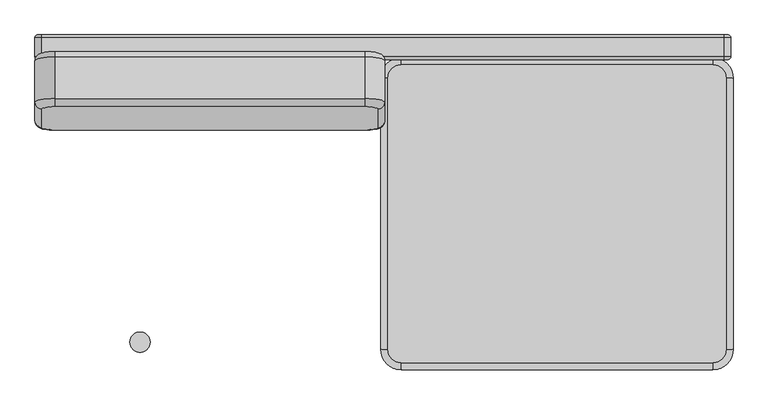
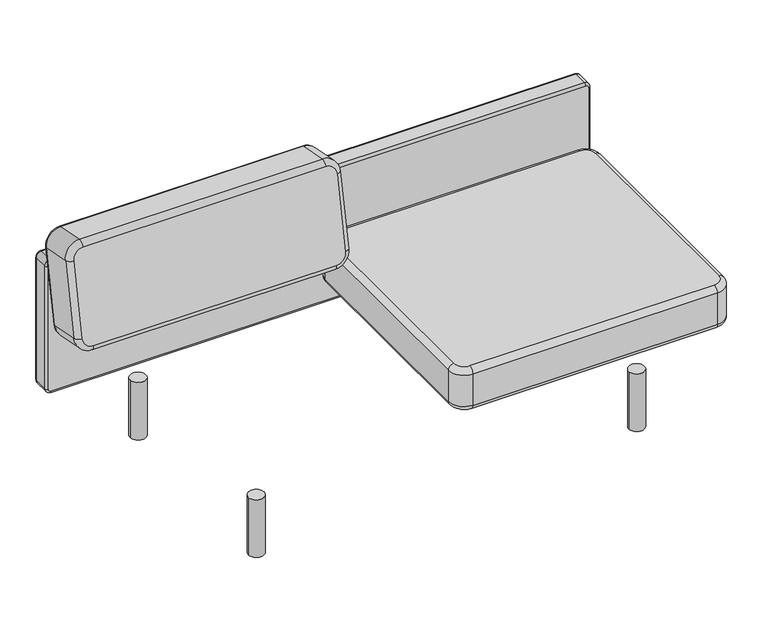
"""IFC4 building model written with IfcOpenShell, lengths in millimetres: furniture geometry, Fredericia - EJ220 Sofa 2 seater 86 - 2052 : Fredericia - EJ220 Sofa 2 seater 86 - 2052."""

from ifc_helpers import new_model, si_unit, point, frame, frame_2d, origin, origin_with_axes, place, context, project, spatial, circle_curve, ellipse_curve, trimmed, segment, composite_curve, outline, extrude, source, transform, mapped, element, save
from ifc_brep_helpers import plane_surface, cylinder_surface, revolved_surface, advanced_brep


def furniture_a2e73fbc(model_context):
    return source(origin(), model_context, "Body", "SolidModel", [
        advanced_brep(
        [(-846.8013561, 664.9135782, 710.8736296), (-846.8013561, 619.8100699, 478.8361951), (-814.1335362, 613.576756, 446.7685751), (-45.0, 613.576756, 446.7685751), (-12.3321801, 619.8100699, 478.8361951), (-12.3321801, 664.9135782, 710.8736296), (-45.0, 671.1468921, 742.9412497), (-814.1335362, 671.1468921, 742.9412497), (-846.8013561, 757.062351, 452.1570543), (-846.8013561, 802.1658592, 684.1944888), (-814.1335362, 808.3991731, 716.2621088), (-45.0, 808.3991731, 716.2621088), (-12.3321801, 802.1658592, 684.1944888), (-12.3321801, 757.062351, 452.1570543), (-45.0, 750.8290371, 420.0894343), (-814.1335362, 750.8290371, 420.0894343), (-864.1335362, 740.0486118, 455.4641902), (-864.1335362, 636.819047, 475.5299849), (-864.1335362, 681.9225552, 707.5674194), (-864.1335362, 785.1521201, 687.5016246), (-814.1335362, 794.6925699, 736.5829838), (-814.1335362, 691.463005, 756.6487785), (-45.0, 691.463005, 756.6487785), (-45.0, 794.6925699, 736.5829838), (5.0, 785.1521201, 687.5016246), (5.0, 681.9225552, 707.5674194), (5.0, 636.819047, 475.5299849), (5.0, 740.0486118, 455.4641902), (-45.0, 730.5081621, 406.382831), (-45.0, 627.2785972, 426.4486258), (-814.1335362, 627.2785972, 426.4486258), (-814.1335362, 730.5081621, 406.382831)],
        [
            (0, 1),
            (1, 2, circle_curve(frame((-814.1335362, 619.8100699, 478.8361951), z_axis=(0.0, -0.9816271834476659, 0.1908089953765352), x_axis=(0.0, -0.1908089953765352, -0.9816271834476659)), 32.6678199)),
            (2, 3),
            (3, 4, circle_curve(frame((-45.0, 619.8100699, 478.8361951), z_axis=(0.0, -0.9816271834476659, 0.1908089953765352), x_axis=(1.0, 0.0, 0.0)), 32.6678199)),
            (4, 5),
            (5, 6, circle_curve(frame((-45.0, 664.9135782, 710.8736296), z_axis=(0.0, -0.9816271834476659, 0.1908089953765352), x_axis=(0.0, 0.1908089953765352, 0.9816271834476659)), 32.6678199)),
            (6, 7),
            (7, 0, circle_curve(frame((-814.1335362, 664.9135782, 710.8736296), z_axis=(0.0, -0.9816271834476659, 0.1908089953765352), x_axis=(-1.0, 0.0, 0.0)), 32.6678199)),
            (8, 9),
            (9, 10, circle_curve(frame((-814.1335362, 802.1658592, 684.1944888), z_axis=(0.0, 0.9816271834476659, -0.1908089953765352), x_axis=(-1.0, 0.0, 0.0)), 32.6678199)),
            (10, 11),
            (11, 12, circle_curve(frame((-45.0, 802.1658592, 684.1944888), z_axis=(0.0, 0.9816271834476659, -0.1908089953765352), x_axis=(0.0, 0.1908089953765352, 0.9816271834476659)), 32.6678199)),
            (12, 13),
            (13, 14, circle_curve(frame((-45.0, 757.062351, 452.1570543), z_axis=(0.0, 0.9816271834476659, -0.1908089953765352), x_axis=(1.0, 0.0, 0.0)), 32.6678199)),
            (14, 15),
            (15, 8, circle_curve(frame((-814.1335362, 757.062351, 452.1570543), z_axis=(0.0, 0.9816271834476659, -0.1908089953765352), x_axis=(0.0, -0.1908089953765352, -0.9816271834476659)), 32.6678199)),
            (16, 17),
            (17, 18),
            (18, 19),
            (19, 16),
            (20, 21),
            (21, 22),
            (22, 23),
            (23, 20),
            (24, 25),
            (25, 26),
            (26, 27),
            (27, 24),
            (28, 29),
            (29, 30),
            (30, 31),
            (31, 28),
            (17, 1, circle_curve(frame((-846.8013561, 636.819047, 475.5299849), z_axis=(0.0, 0.1908089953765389, 0.9816271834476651), x_axis=(1.0, 0.0, 0.0)), 17.3321801)),
            (0, 18, circle_curve(frame((-846.8013561, 681.9225552, 707.5674194), z_axis=(0.0, -0.1908089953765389, -0.9816271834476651), x_axis=(1.0, 0.0, 0.0)), 17.3321801)),
            (19, 9, circle_curve(frame((-846.8013561, 785.1521201, 687.5016246), z_axis=(0.0, -0.19080899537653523, -0.9816271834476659), x_axis=(1.0, 0.0, 0.0)), 17.3321801)),
            (8, 16, circle_curve(frame((-846.8013561, 740.0486118, 455.4641902), z_axis=(0.0, 0.19080899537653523, 0.9816271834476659), x_axis=(1.0, 0.0, 0.0)), 17.3321801)),
            (21, 7, circle_curve(frame((-814.1335362, 688.1558691, 739.6350394), z_axis=(1.0, 0.0, 0.0), x_axis=(0.0, -0.19080899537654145, -0.9816271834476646)), 17.3321801)),
            (6, 22, circle_curve(frame((-45.0, 688.1558691, 739.6350394), z_axis=(-1.0, 0.0, 0.0), x_axis=(0.0, -0.19080899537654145, -0.9816271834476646)), 17.3321801)),
            (23, 11, circle_curve(frame((-45.0, 791.385434, 719.5692447), z_axis=(-1.0, 0.0, 0.0), x_axis=(0.0, -0.19080899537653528, -0.9816271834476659)), 17.3321801)),
            (10, 20, circle_curve(frame((-814.1335362, 791.385434, 719.5692447), z_axis=(1.0, 0.0, 0.0), x_axis=(0.0, -0.19080899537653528, -0.9816271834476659)), 17.3321801)),
            (25, 5, circle_curve(frame((-12.3321801, 681.9225552, 707.5674194), z_axis=(0.0, -0.19080899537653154, -0.9816271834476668), x_axis=(-1.0, 0.0, 0.0)), 17.3321801)),
            (4, 26, circle_curve(frame((-12.3321801, 636.819047, 475.5299849), z_axis=(0.0, 0.19080899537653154, 0.9816271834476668), x_axis=(-1.0, 0.0, 0.0)), 17.3321801)),
            (27, 13, circle_curve(frame((-12.3321801, 740.0486118, 455.4641902), z_axis=(0.0, 0.1908089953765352, 0.981627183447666), x_axis=(-1.0, 0.0, 0.0)), 17.3321801)),
            (12, 24, circle_curve(frame((-12.3321801, 785.1521201, 687.5016246), z_axis=(0.0, -0.1908089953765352, -0.981627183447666), x_axis=(-1.0, 0.0, 0.0)), 17.3321801)),
            (29, 3, circle_curve(frame((-45.0, 630.585733, 443.4623649), z_axis=(-1.0, 0.0, 0.0), x_axis=(0.0, 0.19080899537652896, 0.9816271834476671)), 17.3321801)),
            (2, 30, circle_curve(frame((-814.1335362, 630.585733, 443.4623649), z_axis=(1.0, 0.0, 0.0), x_axis=(0.0, 0.19080899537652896, 0.9816271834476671)), 17.3321801)),
            (31, 15, circle_curve(frame((-814.1335362, 733.8152979, 423.3965701), z_axis=(1.0, 0.0, 0.0), x_axis=(0.0, 0.19080899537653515, 0.9816271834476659)), 17.3321801)),
            (14, 28, circle_curve(frame((-45.0, 733.8152979, 423.3965701), z_axis=(-1.0, 0.0, 0.0), x_axis=(0.0, 0.19080899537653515, 0.9816271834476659)), 17.3321801)),
            (17, 30, circle_curve(frame((-814.1335362, 636.819047, 475.5299849), z_axis=(0.0, -0.9816271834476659, 0.1908089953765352), x_axis=(0.0, -0.1908089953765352, -0.9816271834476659)), 50.0)),
            (16, 31, circle_curve(frame((-814.1335362, 740.0486118, 455.4641902), z_axis=(0.0, -0.9816271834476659, 0.1908089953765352), x_axis=(0.0, -0.1908089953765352, -0.9816271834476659)), 50.0)),
            (21, 18, circle_curve(frame((-814.1335362, 681.9225552, 707.5674194), z_axis=(0.0, -0.9816271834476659, 0.1908089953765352), x_axis=(-1.0, 0.0, 0.0)), 50.0)),
            (20, 19, circle_curve(frame((-814.1335362, 785.1521201, 687.5016246), z_axis=(0.0, -0.9816271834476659, 0.1908089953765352), x_axis=(-1.0, 0.0, 0.0)), 50.0)),
            (25, 22, circle_curve(frame((-45.0, 681.9225552, 707.5674194), z_axis=(0.0, -0.9816271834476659, 0.1908089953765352), x_axis=(0.0, 0.1908089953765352, 0.9816271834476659)), 50.0)),
            (24, 23, circle_curve(frame((-45.0, 785.1521201, 687.5016246), z_axis=(0.0, -0.9816271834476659, 0.1908089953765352), x_axis=(0.0, 0.1908089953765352, 0.9816271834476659)), 50.0)),
            (29, 26, circle_curve(frame((-45.0, 636.819047, 475.5299849), z_axis=(0.0, -0.9816271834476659, 0.1908089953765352), x_axis=(1.0, 0.0, 0.0)), 50.0)),
            (28, 27, circle_curve(frame((-45.0, 740.0486118, 455.4641902), z_axis=(0.0, -0.9816271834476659, 0.1908089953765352), x_axis=(1.0, 0.0, 0.0)), 50.0)),
        ],
        [
            plane_surface(frame((401.9530797, 670.637848, 740.3224451), z_axis=(0.0, -0.9816271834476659, 0.1908089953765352), x_axis=(-1.0, 0.0, 0.0))),
            plane_surface(frame((401.9530797, 807.8901291, 713.6433043), z_axis=(0.0, 0.9816271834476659, -0.1908089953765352), x_axis=(1.0, 0.0, 0.0))),
            plane_surface(frame((-864.1335362, 636.819047, 475.5299849), z_axis=(-1.0000000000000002, 0.0, 0.0), x_axis=(0.0, 0.1908089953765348, 0.981627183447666))),
            plane_surface(frame((-814.1335362, 691.463005, 756.6487785), z_axis=(0.0, 0.19080899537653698, 0.9816271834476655), x_axis=(1.0, 0.0, 0.0))),
            plane_surface(frame((5.0, 681.9225552, 707.5674194), z_axis=(1.0000000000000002, 0.0, 0.0), x_axis=(0.0, -0.19080899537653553, -0.9816271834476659))),
            plane_surface(frame((-45.0, 627.2785972, 426.4486258), z_axis=(0.0, -0.19080899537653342, -0.9816271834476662), x_axis=(-1.0, 0.0, 0.0))),
            cylinder_surface(frame((-846.8013561, 636.819047, 475.5299849), z_axis=(0.0, -0.1908089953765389, -0.9816271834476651), x_axis=(1.0, 0.0, 0.0)), 17.3321801),
            cylinder_surface(frame((-846.8013561, 740.0486118, 455.4641902), z_axis=(0.0, -0.19080899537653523, -0.9816271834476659), x_axis=(1.0, 0.0, 0.0)), 17.3321801),
            cylinder_surface(frame((-814.1335362, 688.1558691, 739.6350394), z_axis=(-1.0, 0.0, 0.0), x_axis=(0.0, -0.19080899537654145, -0.9816271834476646)), 17.3321801),
            cylinder_surface(frame((-814.1335362, 791.385434, 719.5692447), z_axis=(-1.0000000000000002, 0.0, 0.0), x_axis=(0.0, -0.19080899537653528, -0.9816271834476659)), 17.3321801),
            cylinder_surface(frame((-12.3321801, 681.9225552, 707.5674194), z_axis=(0.0, 0.19080899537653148, 0.9816271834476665), x_axis=(-1.0, 0.0, 0.0)), 17.3321801),
            cylinder_surface(frame((-12.3321801, 785.1521201, 687.5016246), z_axis=(0.0, 0.19080899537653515, 0.9816271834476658), x_axis=(-1.0, 0.0, 0.0)), 17.3321801),
            cylinder_surface(frame((-45.0, 630.585733, 443.4623649), z_axis=(1.0, 0.0, 0.0), x_axis=(0.0, 0.19080899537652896, 0.9816271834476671)), 17.3321801),
            cylinder_surface(frame((-45.0, 733.8152979, 423.3965701), z_axis=(1.0, 0.0, 0.0), x_axis=(0.0, 0.19080899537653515, 0.9816271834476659)), 17.3321801),
            revolved_surface(trimmed(ellipse_curve(frame((-814.1335362, 630.585733, 443.4623649), z_axis=(1.0000000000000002, 0.0, 0.0), x_axis=(0.0, 0.19080899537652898, 0.9816271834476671)), 17.3321801, 17.3321801), [point((-814.1335362, 613.5719939, 446.7695007))], [point((-814.1335362, 627.2785972, 426.4486258))], True, "CARTESIAN"), (-814.1335362, 801.1332803, 443.5905334), (0.0, 0.9816271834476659, -0.1908089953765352)),
            cylinder_surface(frame((-814.1335362, 801.1332803, 443.5905334), z_axis=(0.0, 0.9816271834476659, -0.1908089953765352), x_axis=(0.0, -0.1908089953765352, -0.9816271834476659)), 50.0),
            revolved_surface(trimmed(ellipse_curve(frame((-814.1335362, 733.8152979, 423.3965701), z_axis=(1.0000000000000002, 0.0, 0.0), x_axis=(0.0, 0.19080899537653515, 0.9816271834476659)), 17.3321801, 17.3321801), [point((-814.1335362, 730.5081621, 406.382831))], [point((-814.1335362, 750.8290371, 420.0894343))], True, "CARTESIAN"), (-814.1335362, 801.1332803, 443.5905334), (0.0, 0.9816271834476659, -0.1908089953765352)),
            revolved_surface(trimmed(ellipse_curve(frame((-846.8013561, 681.9225552, 707.5674194), z_axis=(0.0, -0.19080899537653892, -0.9816271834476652), x_axis=(1.0, 0.0, 0.0)), 17.3321801, 17.3321801), [point((-846.8013561, 664.9088161, 710.8745552))], [point((-864.1335362, 681.9225552, 707.5674194))], True, "CARTESIAN"), (-814.1335362, 846.2367886, 675.6279679), (0.0, 0.9816271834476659, -0.1908089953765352)),
            cylinder_surface(frame((-814.1335362, 846.2367886, 675.6279679), z_axis=(0.0, 0.9816271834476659, -0.1908089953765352), x_axis=(-1.0, 0.0, 0.0)), 50.0),
            revolved_surface(trimmed(ellipse_curve(frame((-846.8013561, 785.1521201, 687.5016246), z_axis=(0.0, -0.19080899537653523, -0.9816271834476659), x_axis=(1.0, 0.0, 0.0)), 17.3321801, 17.3321801), [point((-864.1335362, 785.1521201, 687.5016246))], [point((-846.8013561, 802.1658592, 684.1944888))], True, "CARTESIAN"), (-814.1335362, 846.2367886, 675.6279679), (0.0, 0.9816271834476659, -0.1908089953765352)),
            revolved_surface(trimmed(ellipse_curve(frame((-45.0, 688.1558691, 739.6350394), z_axis=(-1.0000000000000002, 0.0, 0.0), x_axis=(0.0, -0.19080899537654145, -0.9816271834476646)), 17.3321801, 17.3321801), [point((-45.0, 671.14213, 742.9421753))], [point((-45.0, 691.463005, 756.6487785))], True, "CARTESIAN"), (-45.0, 846.2367886, 675.6279679), (0.0, 0.9816271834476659, -0.1908089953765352)),
            cylinder_surface(frame((-45.0, 846.2367886, 675.6279679), z_axis=(0.0, 0.9816271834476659, -0.1908089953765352), x_axis=(0.0, 0.1908089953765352, 0.9816271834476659)), 50.0),
            revolved_surface(trimmed(ellipse_curve(frame((-45.0, 791.385434, 719.5692447), z_axis=(-1.0000000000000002, 0.0, 0.0), x_axis=(0.0, -0.19080899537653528, -0.9816271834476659)), 17.3321801, 17.3321801), [point((-45.0, 794.6925699, 736.5829838))], [point((-45.0, 808.3991731, 716.2621088))], True, "CARTESIAN"), (-45.0, 846.2367886, 675.6279679), (0.0, 0.9816271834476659, -0.1908089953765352)),
            revolved_surface(trimmed(ellipse_curve(frame((-12.3321801, 636.819047, 475.5299849), z_axis=(0.0, 0.19080899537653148, 0.9816271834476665), x_axis=(-1.0, 0.0, 0.0)), 17.3321801, 17.3321801), [point((-12.3321801, 619.8053078, 478.8371208))], [point((5.0, 636.819047, 475.5299849))], True, "CARTESIAN"), (-45.0, 801.1332803, 443.5905334), (0.0, 0.9816271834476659, -0.1908089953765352)),
            cylinder_surface(frame((-45.0, 801.1332803, 443.5905334), z_axis=(0.0, 0.9816271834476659, -0.1908089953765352), x_axis=(1.0, 0.0, 0.0)), 50.0),
            revolved_surface(trimmed(ellipse_curve(frame((-12.3321801, 740.0486118, 455.4641902), z_axis=(0.0, 0.19080899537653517, 0.9816271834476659), x_axis=(-1.0, 0.0, 0.0)), 17.3321801, 17.3321801), [point((5.0, 740.0486118, 455.4641902))], [point((-12.3321801, 757.062351, 452.1570543))], True, "CARTESIAN"), (-45.0, 801.1332803, 443.5905334), (0.0, 0.9816271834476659, -0.1908089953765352)),
        ],
        [
            (0, [[1, 2, 3, 4, 5, 6, 7, 8]]),
            (1, [[9, 10, 11, 12, 13, 14, 15, 16]]),
            (2, [[17, 18, 19, 20]]),
            (3, [[21, 22, 23, 24]]),
            (4, [[25, 26, 27, 28]]),
            (5, [[29, 30, 31, 32]]),
            (6, [[-18, 33, -1, 34]]),
            (7, [[-20, 35, -9, 36]]),
            (8, [[-22, 37, -7, 38]]),
            (9, [[-24, 39, -11, 40]]),
            (10, [[-26, 41, -5, 42]]),
            (11, [[-28, 43, -13, 44]]),
            (12, [[-30, 45, -3, 46]]),
            (13, [[-32, 47, -15, 48]]),
            (14, [[-33, 49, -46, -2]]),
            (15, [[-17, 50, -31, -49]]),
            (16, [[-36, -16, -47, -50]]),
            (17, [[-34, -8, -37, 51]]),
            (18, [[-19, -51, -21, 52]]),
            (19, [[-35, -52, -40, -10]]),
            (20, [[-38, -6, -41, 53]]),
            (21, [[-23, -53, -25, 54]]),
            (22, [[-39, -54, -44, -12]]),
            (23, [[-42, -4, -45, 55]]),
            (24, [[-27, -55, -29, 56]]),
            (25, [[-43, -56, -48, -14]]),
        ],
    ),
        advanced_brep(
        [(852.1555128, 743.0641303, 290.0), (852.1555128, 67.7, 290.0), (819.4876929, 35.0321801, 290.0), (45.0, 35.0321801, 290.0), (12.3321801, 67.7, 290.0), (12.3321801, 743.0641303, 290.0), (45.0, 775.7319503, 290.0), (819.4876929, 775.7319503, 290.0), (852.1555128, 67.7, 429.8211901), (852.1555128, 743.0641303, 429.8211901), (819.4876929, 775.7319503, 429.8211901), (45.0, 775.7319503, 429.8211901), (12.3321801, 743.0641303, 429.8211901), (12.3321801, 67.7, 429.8211901), (45.0, 35.0321801, 429.8211901), (819.4876929, 35.0321801, 429.8211901), (869.4876929, 743.0641303, 307.3273289), (869.4876929, 743.0641303, 412.4890101), (869.4876929, 67.7, 412.4890101), (869.4876929, 67.7, 307.3273289), (819.4876929, 17.7, 307.3273289), (819.4876929, 17.7, 412.4890101), (45.0, 17.7, 412.4890101), (45.0, 17.7, 307.3273289), (-5.0, 67.7, 307.3273289), (-5.0, 67.7, 412.4890101), (-5.0, 743.0641303, 412.4890101), (-5.0, 743.0641303, 307.3273289), (45.0, 793.0641303, 307.3273289), (45.0, 793.0641303, 412.4890101), (819.4876929, 793.0641303, 412.4890101), (819.4876929, 793.0641303, 307.3273289)],
        [
            (0, 1),
            (1, 2, circle_curve(frame((819.4876929, 67.7, 290.0), z_axis=(0.0, 0.0, -1.0), x_axis=(1.0, 0.0, 0.0)), 32.6678199)),
            (2, 3),
            (3, 4, circle_curve(frame((45.0, 67.7, 290.0), z_axis=(0.0, 0.0, -1.0), x_axis=(0.0, -1.0, 0.0)), 32.6678199)),
            (4, 5),
            (5, 6, circle_curve(frame((45.0, 743.0641303, 290.0), z_axis=(0.0, 0.0, -1.0), x_axis=(-1.0, 0.0, 0.0)), 32.6678199)),
            (6, 7),
            (7, 0, circle_curve(frame((819.4876929, 743.0641303, 290.0), z_axis=(0.0, 0.0, -1.0), x_axis=(0.0, 1.0, 0.0)), 32.6678199)),
            (8, 9),
            (9, 10, circle_curve(frame((819.4876929, 743.0641303, 429.8211901), z_axis=(0.0, 0.0, 1.0), x_axis=(0.0, 1.0, 0.0)), 32.6678199)),
            (10, 11),
            (11, 12, circle_curve(frame((45.0, 743.0641303, 429.8211901), z_axis=(0.0, 0.0, 1.0), x_axis=(-1.0, 0.0, 0.0)), 32.6678199)),
            (12, 13),
            (13, 14, circle_curve(frame((45.0, 67.7, 429.8211901), z_axis=(0.0, 0.0, 1.0), x_axis=(0.0, -1.0, 0.0)), 32.6678199)),
            (14, 15),
            (15, 8, circle_curve(frame((819.4876929, 67.7, 429.8211901), z_axis=(0.0, 0.0, 1.0), x_axis=(1.0, 0.0, 0.0)), 32.6678199)),
            (16, 17),
            (17, 18),
            (18, 19),
            (19, 16),
            (20, 21),
            (21, 22),
            (22, 23),
            (23, 20),
            (24, 25),
            (25, 26),
            (26, 27),
            (27, 24),
            (28, 29),
            (29, 30),
            (30, 31),
            (31, 28),
            (19, 1, circle_curve(frame((852.1555128, 67.7, 307.3273289), z_axis=(0.0, 1.0, 0.0), x_axis=(-1.0, 0.0, 0.0)), 17.3321801)),
            (0, 16, circle_curve(frame((852.1555128, 743.0641303, 307.3273289), z_axis=(0.0, -1.0, 0.0), x_axis=(-1.0, 0.0, 0.0)), 17.3321801)),
            (17, 9, circle_curve(frame((852.1555128, 743.0641303, 412.4890101), z_axis=(0.0, -1.0, 0.0), x_axis=(-1.0, 0.0, 0.0)), 17.3321801)),
            (8, 18, circle_curve(frame((852.1555128, 67.7, 412.4890101), z_axis=(0.0, 1.0, 0.0), x_axis=(-1.0, 0.0, 0.0)), 17.3321801)),
            (23, 3, circle_curve(frame((45.0, 35.0321801, 307.3273289), z_axis=(1.0, 0.0, 0.0), x_axis=(0.0, 1.0, 0.0)), 17.3321801)),
            (2, 20, circle_curve(frame((819.4876929, 35.0321801, 307.3273289), z_axis=(-1.0, 0.0, 0.0), x_axis=(0.0, 1.0, 0.0)), 17.3321801)),
            (21, 15, circle_curve(frame((819.4876929, 35.0321801, 412.4890101), z_axis=(-1.0, 0.0, 0.0), x_axis=(0.0, 1.0, 0.0)), 17.3321801)),
            (14, 22, circle_curve(frame((45.0, 35.0321801, 412.4890101), z_axis=(1.0, 0.0, 0.0), x_axis=(0.0, 1.0, 0.0)), 17.3321801)),
            (27, 5, circle_curve(frame((12.3321801, 743.0641303, 307.3273289), z_axis=(0.0, -1.0, 0.0), x_axis=(1.0, 0.0, 0.0)), 17.3321801)),
            (4, 24, circle_curve(frame((12.3321801, 67.7, 307.3273289), z_axis=(0.0, 1.0, 0.0), x_axis=(1.0, 0.0, 0.0)), 17.3321801)),
            (25, 13, circle_curve(frame((12.3321801, 67.7, 412.4890101), z_axis=(0.0, 1.0, 0.0), x_axis=(1.0, 0.0, 0.0)), 17.3321801)),
            (12, 26, circle_curve(frame((12.3321801, 743.0641303, 412.4890101), z_axis=(0.0, -1.0, 0.0), x_axis=(1.0, 0.0, 0.0)), 17.3321801)),
            (31, 7, circle_curve(frame((819.4876929, 775.7319503, 307.3273289), z_axis=(-1.0, 0.0, 0.0), x_axis=(0.0, -1.0, 0.0)), 17.3321801)),
            (6, 28, circle_curve(frame((45.0, 775.7319503, 307.3273289), z_axis=(1.0, 0.0, 0.0), x_axis=(0.0, -1.0, 0.0)), 17.3321801)),
            (29, 11, circle_curve(frame((45.0, 775.7319503, 412.4890101), z_axis=(1.0, 0.0, 0.0), x_axis=(0.0, -1.0, 0.0)), 17.3321801)),
            (10, 30, circle_curve(frame((819.4876929, 775.7319503, 412.4890101), z_axis=(-1.0, 0.0, 0.0), x_axis=(0.0, -1.0, 0.0)), 17.3321801)),
            (31, 16, circle_curve(frame((819.4876929, 743.0641303, 307.3273289), z_axis=(0.0, 0.0, -1.0), x_axis=(0.0, 1.0, 0.0)), 50.0)),
            (30, 17, circle_curve(frame((819.4876929, 743.0641303, 412.4890101), z_axis=(0.0, 0.0, -1.0), x_axis=(0.0, 1.0, 0.0)), 50.0)),
            (19, 20, circle_curve(frame((819.4876929, 67.7, 307.3273289), z_axis=(0.0, 0.0, -1.0), x_axis=(1.0, 0.0, 0.0)), 50.0)),
            (18, 21, circle_curve(frame((819.4876929, 67.7, 412.4890101), z_axis=(0.0, 0.0, -1.0), x_axis=(1.0, 0.0, 0.0)), 50.0)),
            (23, 24, circle_curve(frame((45.0, 67.7, 307.3273289), z_axis=(0.0, 0.0, -1.0), x_axis=(0.0, -1.0, 0.0)), 50.0)),
            (22, 25, circle_curve(frame((45.0, 67.7, 412.4890101), z_axis=(0.0, 0.0, -1.0), x_axis=(0.0, -1.0, 0.0)), 50.0)),
            (27, 28, circle_curve(frame((45.0, 743.0641303, 307.3273289), z_axis=(0.0, 0.0, -1.0), x_axis=(-1.0, 0.0, 0.0)), 50.0)),
            (26, 29, circle_curve(frame((45.0, 743.0641303, 412.4890101), z_axis=(0.0, 0.0, -1.0), x_axis=(-1.0, 0.0, 0.0)), 50.0)),
        ],
        [
            plane_surface(frame((789.4876929, 67.7, 290.0), z_axis=(0.0, 0.0, -1.0), x_axis=(0.0, 1.0, 0.0))),
            plane_surface(frame((789.4876929, 67.7, 429.8211901), z_axis=(0.0, 0.0, 1.0), x_axis=(0.0, -1.0, 0.0))),
            plane_surface(frame((869.4876929, 743.0641303, 412.4890101), z_axis=(1.0, 0.0, 0.0), x_axis=(0.0, -1.0, 0.0))),
            plane_surface(frame((819.4876929, 17.7, 412.4890101), z_axis=(0.0, -1.0, 0.0), x_axis=(-1.0, 0.0, 0.0))),
            plane_surface(frame((-5.0, 67.7, 412.4890101), z_axis=(-1.0, 0.0, 0.0), x_axis=(0.0, 1.0, 0.0))),
            plane_surface(frame((45.0, 793.0641303, 412.4890101), z_axis=(0.0, 1.0, 0.0), x_axis=(1.0, 0.0, 0.0))),
            cylinder_surface(frame((852.1555128, 743.0641303, 307.3273289), z_axis=(0.0, 1.0, 0.0), x_axis=(-1.0, 0.0, 0.0)), 17.3321801),
            cylinder_surface(frame((852.1555128, 743.0641303, 412.4890101), z_axis=(0.0, 1.0, 0.0), x_axis=(-1.0, 0.0, 0.0)), 17.3321801),
            cylinder_surface(frame((819.4876929, 35.0321801, 307.3273289), z_axis=(1.0, 0.0, 0.0), x_axis=(0.0, 1.0, 0.0)), 17.3321801),
            cylinder_surface(frame((819.4876929, 35.0321801, 412.4890101), z_axis=(1.0, 0.0, 0.0), x_axis=(0.0, 1.0, 0.0)), 17.3321801),
            cylinder_surface(frame((12.3321801, 67.7, 307.3273289), z_axis=(0.0, -1.0, 0.0), x_axis=(1.0, 0.0, 0.0)), 17.3321801),
            cylinder_surface(frame((12.3321801, 67.7, 412.4890101), z_axis=(0.0, -1.0, 0.0), x_axis=(1.0, 0.0, 0.0)), 17.3321801),
            cylinder_surface(frame((45.0, 775.7319503, 307.3273289), z_axis=(-1.0, 0.0, 0.0), x_axis=(0.0, -1.0, 0.0)), 17.3321801),
            cylinder_surface(frame((45.0, 775.7319503, 412.4890101), z_axis=(-1.0, 0.0, 0.0), x_axis=(0.0, -1.0, 0.0)), 17.3321801),
            revolved_surface(trimmed(ellipse_curve(frame((819.4876929, 775.7319503, 307.3273289), z_axis=(-1.0, 0.0, 0.0), x_axis=(0.0, -1.0, 0.0)), 17.3321801, 17.3321801), [point((819.4876929, 793.0641303, 307.3273289))], [point((819.4876929, 775.7319503, 289.9951488))], True, "CARTESIAN"), (819.4876929, 743.0641303, 474.7169816), (0.0, 0.0, -1.0)),
            cylinder_surface(frame((819.4876929, 743.0641303, 474.7169816), z_axis=(0.0, 0.0, -1.0), x_axis=(0.0, 1.0, 0.0)), 50.0),
            revolved_surface(trimmed(ellipse_curve(frame((819.4876929, 775.7319503, 412.4890101), z_axis=(-1.0, 0.0, 0.0), x_axis=(0.0, -1.0, 0.0)), 17.3321801, 17.3321801), [point((819.4876929, 775.7319503, 429.8211901))], [point((819.4876929, 793.0641303, 412.4890101))], True, "CARTESIAN"), (819.4876929, 743.0641303, 474.7169816), (0.0, 0.0, -1.0)),
            revolved_surface(trimmed(ellipse_curve(frame((852.1555128, 67.7, 307.3273289), z_axis=(0.0, 1.0, 0.0), x_axis=(-1.0, 0.0, 0.0)), 17.3321801, 17.3321801), [point((869.4876929, 67.7, 307.3273289))], [point((852.1555128, 67.7, 289.9951488))], True, "CARTESIAN"), (819.4876929, 67.7, 474.7169816), (0.0, 0.0, -1.0)),
            cylinder_surface(frame((819.4876929, 67.7, 474.7169816), z_axis=(0.0, 0.0, -1.0), x_axis=(1.0, 0.0, 0.0)), 50.0),
            revolved_surface(trimmed(ellipse_curve(frame((852.1555128, 67.7, 412.4890101), z_axis=(0.0, 1.0, 0.0), x_axis=(-1.0, 0.0, 0.0)), 17.3321801, 17.3321801), [point((852.1555128, 67.7, 429.8211901))], [point((869.4876929, 67.7, 412.4890101))], True, "CARTESIAN"), (819.4876929, 67.7, 474.7169816), (0.0, 0.0, -1.0)),
            revolved_surface(trimmed(ellipse_curve(frame((45.0, 35.0321801, 307.3273289), z_axis=(1.0, 0.0, 0.0), x_axis=(0.0, 1.0, 0.0)), 17.3321801, 17.3321801), [point((45.0, 17.7, 307.3273289))], [point((45.0, 35.0321801, 289.9951488))], True, "CARTESIAN"), (45.0, 67.7, 474.7169816), (0.0, 0.0, -1.0)),
            cylinder_surface(frame((45.0, 67.7, 474.7169816), z_axis=(0.0, 0.0, -1.0), x_axis=(0.0, -1.0, 0.0)), 50.0),
            revolved_surface(trimmed(ellipse_curve(frame((45.0, 35.0321801, 412.4890101), z_axis=(1.0, 0.0, 0.0), x_axis=(0.0, 1.0, 0.0)), 17.3321801, 17.3321801), [point((45.0, 35.0321801, 429.8211901))], [point((45.0, 17.7, 412.4890101))], True, "CARTESIAN"), (45.0, 67.7, 474.7169816), (0.0, 0.0, -1.0)),
            revolved_surface(trimmed(ellipse_curve(frame((12.3321801, 743.0641303, 307.3273289), z_axis=(0.0, -1.0, 0.0), x_axis=(1.0, 0.0, 0.0)), 17.3321801, 17.3321801), [point((-5.0, 743.0641303, 307.3273289))], [point((12.3321801, 743.0641303, 289.9951488))], True, "CARTESIAN"), (45.0, 743.0641303, 474.7169816), (0.0, 0.0, -1.0)),
            cylinder_surface(frame((45.0, 743.0641303, 474.7169816), z_axis=(0.0, 0.0, -1.0), x_axis=(-1.0, 0.0, 0.0)), 50.0),
            revolved_surface(trimmed(ellipse_curve(frame((12.3321801, 743.0641303, 412.4890101), z_axis=(0.0, -1.0, 0.0), x_axis=(1.0, 0.0, 0.0)), 17.3321801, 17.3321801), [point((12.3321801, 743.0641303, 429.8211901))], [point((-5.0, 743.0641303, 412.4890101))], True, "CARTESIAN"), (45.0, 743.0641303, 474.7169816), (0.0, 0.0, -1.0)),
        ],
        [
            (0, [[1, 2, 3, 4, 5, 6, 7, 8]]),
            (1, [[9, 10, 11, 12, 13, 14, 15, 16]]),
            (2, [[17, 18, 19, 20]]),
            (3, [[21, 22, 23, 24]]),
            (4, [[25, 26, 27, 28]]),
            (5, [[29, 30, 31, 32]]),
            (6, [[-20, 33, -1, 34]]),
            (7, [[-18, 35, -9, 36]]),
            (8, [[-24, 37, -3, 38]]),
            (9, [[-22, 39, -15, 40]]),
            (10, [[-28, 41, -5, 42]]),
            (11, [[-26, 43, -13, 44]]),
            (12, [[-32, 45, -7, 46]]),
            (13, [[-30, 47, -11, 48]]),
            (14, [[-34, -8, -45, 49]]),
            (15, [[-17, -49, -31, 50]]),
            (16, [[-35, -50, -48, -10]]),
            (17, [[-33, 51, -38, -2]]),
            (18, [[-19, 52, -21, -51]]),
            (19, [[-36, -16, -39, -52]]),
            (20, [[-37, 53, -42, -4]]),
            (21, [[-23, 54, -25, -53]]),
            (22, [[-40, -14, -43, -54]]),
            (23, [[-41, 55, -46, -6]]),
            (24, [[-27, 56, -29, -55]]),
            (25, [[-44, -12, -47, -56]]),
        ],
    ),
        extrude(outline(composite_curve([segment(trimmed(circle_curve(frame_2d((-603.2583193, 86.2196986)), 25.0), [point((-578.2583193, 86.2196986))], [point((-628.2583193, 86.2196986))], False, "CARTESIAN"), True, "CONTINUOUS"), segment(trimmed(circle_curve(frame_2d((-603.2583193, 86.2196986)), 25.0), [point((-628.2583193, 86.2196986))], [point((-578.2583193, 86.2196986))], False, "CARTESIAN"), True, "CONTINUOUS")], self_intersect=False)), origin_with_axes(), (0.0, 0.0, 1.0), 192.8),
        extrude(outline(composite_curve([segment(trimmed(circle_curve(frame_2d((-603.2583193, 735.5757348)), 25.0), [point((-578.2583193, 735.5757348))], [point((-628.2583193, 735.5757348))], False, "CARTESIAN"), True, "CONTINUOUS"), segment(trimmed(circle_curve(frame_2d((-603.2583193, 735.5757348)), 25.0), [point((-628.2583193, 735.5757348))], [point((-578.2583193, 735.5757348))], False, "CARTESIAN"), True, "CONTINUOUS")], self_intersect=False)), origin_with_axes(), (0.0, 0.0, 1.0), 192.8),
        extrude(outline(composite_curve([segment(trimmed(circle_curve(frame_2d((603.0099961, 735.5757348)), 25.0), [point((628.0099961, 735.5757348))], [point((578.0099961, 735.5757348))], False, "CARTESIAN"), True, "CONTINUOUS"), segment(trimmed(circle_curve(frame_2d((603.0099961, 735.5757348)), 25.0), [point((578.0099961, 735.5757348))], [point((628.0099961, 735.5757348))], False, "CARTESIAN"), True, "CONTINUOUS")], self_intersect=False)), origin_with_axes(), (0.0, 0.0, 1.0), 192.8),
        extrude(outline(composite_curve([segment(trimmed(circle_curve(frame_2d((603.0099961, 86.3098054)), 25.0), [point((628.0099961, 86.3098054))], [point((578.0099961, 86.3098054))], False, "CARTESIAN"), True, "CONTINUOUS"), segment(trimmed(circle_curve(frame_2d((603.0099961, 86.3098054)), 25.0), [point((578.0099961, 86.3098054))], [point((628.0099961, 86.3098054))], False, "CARTESIAN"), True, "CONTINUOUS")], self_intersect=False)), origin_with_axes(), (0.0, 0.0, 1.0), 192.8),
        advanced_brep(
        [(-856.6335362, 788.5182574, 620.2295429), (-856.6335362, 788.5182574, 209.855155), (-847.0335362, 788.5182574, 200.255155), (846.5320736, 788.5182574, 200.255155), (856.1320736, 788.5182574, 209.855155), (856.1320736, 788.5182574, 620.2295429), (846.5320736, 788.5182574, 629.8295429), (-847.0335362, 788.5182574, 629.8295429), (-856.6335362, 850.0101989, 209.855155), (-856.6335362, 850.0101989, 620.2295429), (-847.0335362, 850.0101989, 629.8295429), (846.5320736, 850.0101989, 629.8295429), (856.1320736, 850.0101989, 620.2295429), (856.1320736, 850.0101989, 209.855155), (846.5320736, 850.0101989, 200.255155), (-847.0335362, 850.0101989, 200.255155), (-864.1335362, 796.0182574, 209.855155), (-864.1335362, 796.0182574, 620.2295429), (-864.1335362, 842.5101989, 620.2295429), (-864.1335362, 842.5101989, 209.855155), (-847.0335362, 796.0182574, 637.3295429), (846.5320736, 796.0182574, 637.3295429), (846.5320736, 842.5101989, 637.3295429), (-847.0335362, 842.5101989, 637.3295429), (863.6320736, 796.0182574, 620.2295429), (863.6320736, 796.0182574, 209.855155), (863.6320736, 842.5101989, 209.855155), (863.6320736, 842.5101989, 620.2295429), (846.5320736, 796.0182574, 192.755155), (-847.0335362, 796.0182574, 192.755155), (-847.0335362, 842.5101989, 192.755155), (846.5320736, 842.5101989, 192.755155)],
        [
            (0, 1),
            (1, 2, circle_curve(frame((-847.0335362, 788.5182574, 209.855155), z_axis=(0.0, -1.0, 0.0), x_axis=(0.0, 0.0, -1.0)), 9.6)),
            (2, 3),
            (3, 4, circle_curve(frame((846.5320736, 788.5182574, 209.855155), z_axis=(0.0, -1.0, 0.0), x_axis=(1.0, 0.0, 0.0)), 9.6)),
            (4, 5),
            (5, 6, circle_curve(frame((846.5320736, 788.5182574, 620.2295429), z_axis=(0.0, -1.0, 0.0), x_axis=(0.0, 0.0, 1.0)), 9.6)),
            (6, 7),
            (7, 0, circle_curve(frame((-847.0335362, 788.5182574, 620.2295429), z_axis=(0.0, -1.0, 0.0), x_axis=(-1.0, 0.0, 0.0)), 9.6)),
            (8, 9),
            (9, 10, circle_curve(frame((-847.0335362, 850.0101989, 620.2295429), z_axis=(0.0, 1.0, 0.0), x_axis=(-1.0, 0.0, 0.0)), 9.6)),
            (10, 11),
            (11, 12, circle_curve(frame((846.5320736, 850.0101989, 620.2295429), z_axis=(0.0, 1.0, 0.0), x_axis=(0.0, 0.0, 1.0)), 9.6)),
            (12, 13),
            (13, 14, circle_curve(frame((846.5320736, 850.0101989, 209.855155), z_axis=(0.0, 1.0, 0.0), x_axis=(1.0, 0.0, 0.0)), 9.6)),
            (14, 15),
            (15, 8, circle_curve(frame((-847.0335362, 850.0101989, 209.855155), z_axis=(0.0, 1.0, 0.0), x_axis=(0.0, 0.0, -1.0)), 9.6)),
            (16, 1, circle_curve(frame((-856.6335362, 796.0182574, 209.855155), z_axis=(0.0, 0.0, 1.0), x_axis=(1.0, 0.0, 0.0)), 7.5)),
            (0, 17, circle_curve(frame((-856.6335362, 796.0182574, 620.2295429), z_axis=(0.0, 0.0, -1.0), x_axis=(1.0, 0.0, 0.0)), 7.5)),
            (17, 16),
            (17, 18),
            (18, 19),
            (19, 16),
            (18, 9, circle_curve(frame((-856.6335362, 842.5101989, 620.2295429), z_axis=(0.0, 0.0, -1.0), x_axis=(1.0, 0.0, 0.0)), 7.5)),
            (8, 19, circle_curve(frame((-856.6335362, 842.5101989, 209.855155), z_axis=(0.0, 0.0, 1.0), x_axis=(1.0, 0.0, 0.0)), 7.5)),
            (20, 7, circle_curve(frame((-847.0335362, 796.0182574, 629.8295429), z_axis=(1.0, 0.0, 0.0), x_axis=(0.0, 0.0, -1.0)), 7.5)),
            (6, 21, circle_curve(frame((846.5320736, 796.0182574, 629.8295429), z_axis=(-1.0, 0.0, 0.0), x_axis=(0.0, 0.0, -1.0)), 7.5)),
            (21, 20),
            (21, 22),
            (22, 23),
            (23, 20),
            (22, 11, circle_curve(frame((846.5320736, 842.5101989, 629.8295429), z_axis=(-1.0, 0.0, 0.0), x_axis=(0.0, 0.0, -1.0)), 7.5)),
            (10, 23, circle_curve(frame((-847.0335362, 842.5101989, 629.8295429), z_axis=(1.0, 0.0, 0.0), x_axis=(0.0, 0.0, -1.0)), 7.5)),
            (24, 5, circle_curve(frame((856.1320736, 796.0182574, 620.2295429), z_axis=(0.0, 0.0, -1.0), x_axis=(-1.0, 0.0, 0.0)), 7.5)),
            (4, 25, circle_curve(frame((856.1320736, 796.0182574, 209.855155), z_axis=(0.0, 0.0, 1.0), x_axis=(-1.0, 0.0, 0.0)), 7.5)),
            (25, 24),
            (25, 26),
            (26, 27),
            (27, 24),
            (26, 13, circle_curve(frame((856.1320736, 842.5101989, 209.855155), z_axis=(0.0, 0.0, 1.0), x_axis=(-1.0, 0.0, 0.0)), 7.5)),
            (12, 27, circle_curve(frame((856.1320736, 842.5101989, 620.2295429), z_axis=(0.0, 0.0, -1.0), x_axis=(-1.0, 0.0, 0.0)), 7.5)),
            (28, 3, circle_curve(frame((846.5320736, 796.0182574, 200.255155), z_axis=(-1.0, 0.0, 0.0), x_axis=(0.0, 0.0, 1.0)), 7.5)),
            (2, 29, circle_curve(frame((-847.0335362, 796.0182574, 200.255155), z_axis=(1.0, 0.0, 0.0), x_axis=(0.0, 0.0, 1.0)), 7.5)),
            (29, 28),
            (29, 30),
            (30, 31),
            (31, 28),
            (30, 15, circle_curve(frame((-847.0335362, 842.5101989, 200.255155), z_axis=(1.0, 0.0, 0.0), x_axis=(0.0, 0.0, 1.0)), 7.5)),
            (14, 31, circle_curve(frame((846.5320736, 842.5101989, 200.255155), z_axis=(-1.0, 0.0, 0.0), x_axis=(0.0, 0.0, 1.0)), 7.5)),
            (16, 29, circle_curve(frame((-847.0335362, 796.0182574, 209.855155), z_axis=(0.0, -1.0, 0.0), x_axis=(0.0, 0.0, -1.0)), 17.1)),
            (19, 30, circle_curve(frame((-847.0335362, 842.5101989, 209.855155), z_axis=(0.0, -1.0, 0.0), x_axis=(0.0, 0.0, -1.0)), 17.1)),
            (20, 17, circle_curve(frame((-847.0335362, 796.0182574, 620.2295429), z_axis=(0.0, -1.0, 0.0), x_axis=(-1.0, 0.0, 0.0)), 17.1)),
            (23, 18, circle_curve(frame((-847.0335362, 842.5101989, 620.2295429), z_axis=(0.0, -1.0, 0.0), x_axis=(-1.0, 0.0, 0.0)), 17.1)),
            (24, 21, circle_curve(frame((846.5320736, 796.0182574, 620.2295429), z_axis=(0.0, -1.0, 0.0), x_axis=(0.0, 0.0, 1.0)), 17.1)),
            (27, 22, circle_curve(frame((846.5320736, 842.5101989, 620.2295429), z_axis=(0.0, -1.0, 0.0), x_axis=(0.0, 0.0, 1.0)), 17.1)),
            (28, 25, circle_curve(frame((846.5320736, 796.0182574, 209.855155), z_axis=(0.0, -1.0, 0.0), x_axis=(1.0, 0.0, 0.0)), 17.1)),
            (31, 26, circle_curve(frame((846.5320736, 842.5101989, 209.855155), z_axis=(0.0, -1.0, 0.0), x_axis=(1.0, 0.0, 0.0)), 17.1)),
        ],
        [
            plane_surface(frame((401.3694773, 788.5182574, 622.3295429), z_axis=(0.0, -1.0, 0.0), x_axis=(-1.0, 0.0, 0.0))),
            plane_surface(frame((401.3694773, 850.0101989, 622.3295429), z_axis=(0.0, 1.0, 0.0), x_axis=(1.0, 0.0, 0.0))),
            cylinder_surface(frame((-856.6335362, 796.0182574, 209.855155), z_axis=(0.0, 0.0, -1.0), x_axis=(1.0, 0.0, 0.0)), 7.5),
            plane_surface(frame((-864.1335362, 796.0182574, 209.855155), z_axis=(-1.0, 0.0, 0.0), x_axis=(0.0, 0.0, 1.0))),
            cylinder_surface(frame((-856.6335362, 842.5101989, 209.855155), z_axis=(0.0, 0.0, -1.0), x_axis=(1.0, 0.0, 0.0)), 7.5),
            cylinder_surface(frame((-847.0335362, 796.0182574, 629.8295429), z_axis=(-1.0, 0.0, 0.0), x_axis=(0.0, 0.0, -1.0)), 7.5),
            plane_surface(frame((-847.0335362, 796.0182574, 637.3295429), z_axis=(0.0, 0.0, 1.0), x_axis=(1.0, 0.0, 0.0))),
            cylinder_surface(frame((-847.0335362, 842.5101989, 629.8295429), z_axis=(-1.0, 0.0, 0.0), x_axis=(0.0, 0.0, -1.0)), 7.5),
            cylinder_surface(frame((856.1320736, 796.0182574, 620.2295429), z_axis=(0.0, 0.0, 1.0), x_axis=(-1.0, 0.0, 0.0)), 7.5),
            plane_surface(frame((863.6320736, 796.0182574, 620.2295429), z_axis=(1.0, 0.0, 0.0), x_axis=(0.0, 0.0, -1.0))),
            cylinder_surface(frame((856.1320736, 842.5101989, 620.2295429), z_axis=(0.0, 0.0, 1.0), x_axis=(-1.0, 0.0, 0.0)), 7.5),
            cylinder_surface(frame((846.5320736, 796.0182574, 200.255155), z_axis=(1.0, 0.0, 0.0), x_axis=(0.0, 0.0, 1.0)), 7.5),
            plane_surface(frame((846.5320736, 796.0182574, 192.755155), z_axis=(0.0, 0.0, -1.0), x_axis=(-1.0, 0.0, 0.0))),
            cylinder_surface(frame((846.5320736, 842.5101989, 200.255155), z_axis=(1.0, 0.0, 0.0), x_axis=(0.0, 0.0, 1.0)), 7.5),
            revolved_surface(trimmed(ellipse_curve(frame((-847.0335362, 796.0182574, 200.255155), z_axis=(1.0, 0.0, 0.0), x_axis=(0.0, 0.0, 1.0)), 7.5, 7.5), [point((-847.0335362, 788.5182574, 200.255155))], [point((-847.0335362, 796.0182574, 192.755155))], True, "CARTESIAN"), (-847.0335362, 850.0101989, 209.855155), (0.0, 1.0, 0.0)),
            cylinder_surface(frame((-847.0335362, 850.0101989, 209.855155), z_axis=(0.0, 1.0, 0.0), x_axis=(0.0, 0.0, -1.0)), 17.1),
            revolved_surface(trimmed(ellipse_curve(frame((-847.0335362, 842.5101989, 200.255155), z_axis=(1.0, 0.0, 0.0), x_axis=(0.0, 0.0, 1.0)), 7.5, 7.5), [point((-847.0335362, 842.5101989, 192.755155))], [point((-847.0335362, 850.0101989, 200.255155))], True, "CARTESIAN"), (-847.0335362, 850.0101989, 209.855155), (0.0, 1.0, 0.0)),
            revolved_surface(trimmed(ellipse_curve(frame((-856.6335362, 796.0182574, 620.2295429), z_axis=(0.0, 0.0, -1.0), x_axis=(1.0, 0.0, 0.0)), 7.5, 7.5), [point((-856.6335362, 788.5182574, 620.2295429))], [point((-864.1335362, 796.0182574, 620.2295429))], True, "CARTESIAN"), (-847.0335362, 850.0101989, 620.2295429), (0.0, 1.0, 0.0)),
            cylinder_surface(frame((-847.0335362, 850.0101989, 620.2295429), z_axis=(0.0, 1.0, 0.0), x_axis=(-1.0, 0.0, 0.0)), 17.1),
            revolved_surface(trimmed(ellipse_curve(frame((-856.6335362, 842.5101989, 620.2295429), z_axis=(0.0, 0.0, -1.0), x_axis=(1.0, 0.0, 0.0)), 7.5, 7.5), [point((-864.1335362, 842.5101989, 620.2295429))], [point((-856.6335362, 850.0101989, 620.2295429))], True, "CARTESIAN"), (-847.0335362, 850.0101989, 620.2295429), (0.0, 1.0, 0.0)),
            revolved_surface(trimmed(ellipse_curve(frame((846.5320736, 796.0182574, 629.8295429), z_axis=(-1.0, 0.0, 0.0), x_axis=(0.0, 0.0, -1.0)), 7.5, 7.5), [point((846.5320736, 788.5182574, 629.8295429))], [point((846.5320736, 796.0182574, 637.3295429))], True, "CARTESIAN"), (846.5320736, 850.0101989, 620.2295429), (0.0, 1.0, 0.0)),
            cylinder_surface(frame((846.5320736, 850.0101989, 620.2295429), z_axis=(0.0, 1.0, 0.0), x_axis=(0.0, 0.0, 1.0)), 17.1),
            revolved_surface(trimmed(ellipse_curve(frame((846.5320736, 842.5101989, 629.8295429), z_axis=(-1.0, 0.0, 0.0), x_axis=(0.0, 0.0, -1.0)), 7.5, 7.5), [point((846.5320736, 842.5101989, 637.3295429))], [point((846.5320736, 850.0101989, 629.8295429))], True, "CARTESIAN"), (846.5320736, 850.0101989, 620.2295429), (0.0, 1.0, 0.0)),
            revolved_surface(trimmed(ellipse_curve(frame((856.1320736, 796.0182574, 209.855155), z_axis=(0.0, 0.0, 1.0), x_axis=(-1.0, 0.0, 0.0)), 7.5, 7.5), [point((856.1320736, 788.5182574, 209.855155))], [point((863.6320736, 796.0182574, 209.855155))], True, "CARTESIAN"), (846.5320736, 850.0101989, 209.855155), (0.0, 1.0, 0.0)),
            cylinder_surface(frame((846.5320736, 850.0101989, 209.855155), z_axis=(0.0, 1.0, 0.0), x_axis=(1.0, 0.0, 0.0)), 17.1),
            revolved_surface(trimmed(ellipse_curve(frame((856.1320736, 842.5101989, 209.855155), z_axis=(0.0, 0.0, 1.0), x_axis=(-1.0, 0.0, 0.0)), 7.5, 7.5), [point((863.6320736, 842.5101989, 209.855155))], [point((856.1320736, 850.0101989, 209.855155))], True, "CARTESIAN"), (846.5320736, 850.0101989, 209.855155), (0.0, 1.0, 0.0)),
        ],
        [
            (0, [[1, 2, 3, 4, 5, 6, 7, 8]]),
            (1, [[9, 10, 11, 12, 13, 14, 15, 16]]),
            (2, [[17, -1, 18, 19]]),
            (3, [[-19, 20, 21, 22]]),
            (4, [[-21, 23, -9, 24]]),
            (5, [[25, -7, 26, 27]]),
            (6, [[-27, 28, 29, 30]]),
            (7, [[-29, 31, -11, 32]]),
            (8, [[33, -5, 34, 35]]),
            (9, [[-35, 36, 37, 38]]),
            (10, [[-37, 39, -13, 40]]),
            (11, [[41, -3, 42, 43]]),
            (12, [[-43, 44, 45, 46]]),
            (13, [[-45, 47, -15, 48]]),
            (14, [[-17, 49, -42, -2]]),
            (15, [[-22, 50, -44, -49]]),
            (16, [[-24, -16, -47, -50]]),
            (17, [[-18, -8, -25, 51]]),
            (18, [[-20, -51, -30, 52]]),
            (19, [[-23, -52, -32, -10]]),
            (20, [[-26, -6, -33, 53]]),
            (21, [[-28, -53, -38, 54]]),
            (22, [[-31, -54, -40, -12]]),
            (23, [[-34, -4, -41, 55]]),
            (24, [[-36, -55, -46, 56]]),
            (25, [[-39, -56, -48, -14]]),
        ],
    ),
    ])


if __name__ == "__main__":
    model = new_model("IFC4")
    model_context = context("Model", 3, world=origin())
    ifc_project = project(units=[si_unit("LENGTHUNIT", "METRE", prefix="MILLI")], contexts=[model_context])
    site = spatial("IfcSite", under=ifc_project)
    building = spatial("IfcBuilding", under=site)
    placement = place(None, origin())
    furniture_shape = furniture_a2e73fbc(model_context)
    element("IfcFurniture", 1, ObjectType="Fredericia - EJ220 Sofa 2 seater 86 - 2052 : Fredericia - EJ220 Sofa 2 seater 86 - 2052", at=placement, inside=building, context=model_context, shape_type="MappedRepresentation", body=[
        mapped(furniture_shape, transform((0.0, 0.0, 0.0), x_axis=(1.0, 0.0, 0.0), y_axis=(0.0, 1.0, 0.0), z_axis=(0.0, 0.0, 1.0))),
    ])
    save(model, "model.ifc")
